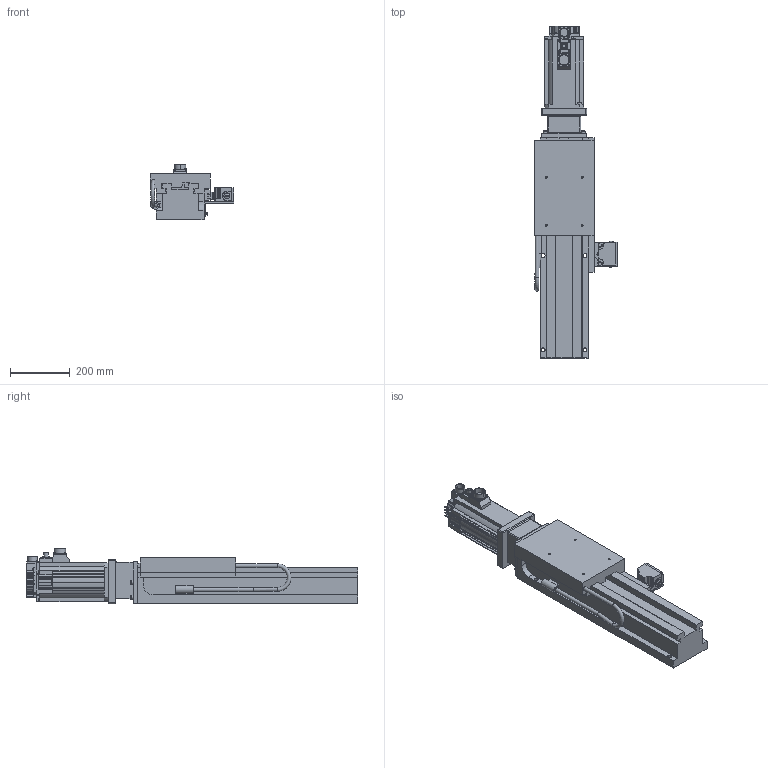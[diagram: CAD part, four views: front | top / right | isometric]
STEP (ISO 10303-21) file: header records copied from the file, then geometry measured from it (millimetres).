
FILE_DESCRIPTION((''),'2;1');
FILE_NAME('C:\VaultWork\Zeichnungen\Maßblätter\H160\VE01378-2-0 Maßblatt H160-me-400-EE.stp','2009-04-20T16:17:57',('Test'),(''),'Autodesk Inventor 2008','Autodesk Inventor 2008','');
FILE_SCHEMA(('AUTOMOTIVE_DESIGN { 1 0 10303 214 1 1 1 1 }'));
Length unit declared in the file: millimetre
Products named in the file (1): VE01378-2-0 Maßblatt H160-me-400-EE
Bounding box: 279.5 x 1109 x 185.75 mm (x, y, z)
Volume: 19520491.7 mm3; surface area: 1105545.2 mm2
Topology: 1 solids, 4 shells, 955 faces, 2507 edges, 1633 vertices
Faces by surface type: plane 634, cylinder 258, cone 22, bspline 20, torus 19, sphere 2
Full cylindrical faces by diameter (mm): 3.8 x2, 4 x2, 4.917 x2, 5.9 x2, 6 x4, 6.6 x2, 8 x1, 9.98 x2, 10 x5, 13 x8, 20 x2, 25 x1
Entity records: 30132 total; most frequent: CARTESIAN_POINT 5797, DIRECTION 4805, ORIENTED_EDGE 4766, EDGE_CURVE 2383, VECTOR 1679, LINE 1679, VERTEX_POINT 1589, AXIS2_PLACEMENT_3D 1563
